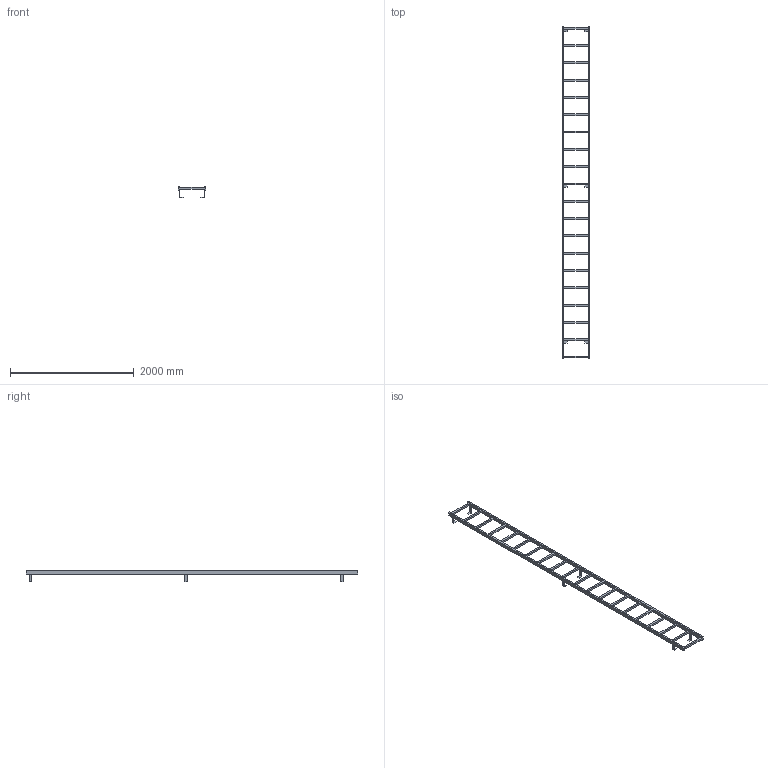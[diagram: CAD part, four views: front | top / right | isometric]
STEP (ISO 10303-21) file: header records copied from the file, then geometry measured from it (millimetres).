
FILE_DESCRIPTION((''),'2;1');
FILE_NAME('017_000109','2017-06-19T',('set'),('HUBER SE'),'PRO/ENGINEER BY PARAMETRIC TECHNOLOGY CORPORATION, 2015280','PRO/ENGINEER BY PARAMETRIC TECHNOLOGY CORPORATION, 2015280','');
FILE_SCHEMA(('CONFIG_CONTROL_DESIGN'));
Length unit declared in the file: millimetre
Products named in the file (1): 017_000109
Bounding box: 450 x 5370 x 178.5 mm (x, y, z)
Volume: 22601940 mm3; surface area: 2780292 mm2
Topology: 1 solids, 1 shells, 138 faces, 509 edges, 367 vertices
Faces by surface type: plane 138
Entity records: 5306 total; most frequent: CARTESIAN_POINT 1075, ORIENTED_EDGE 816, DIRECTION 780, VECTOR 462, LINE 462, EDGE_CURVE 408, VERTEX_POINT 266, EDGE_LOOP 170
